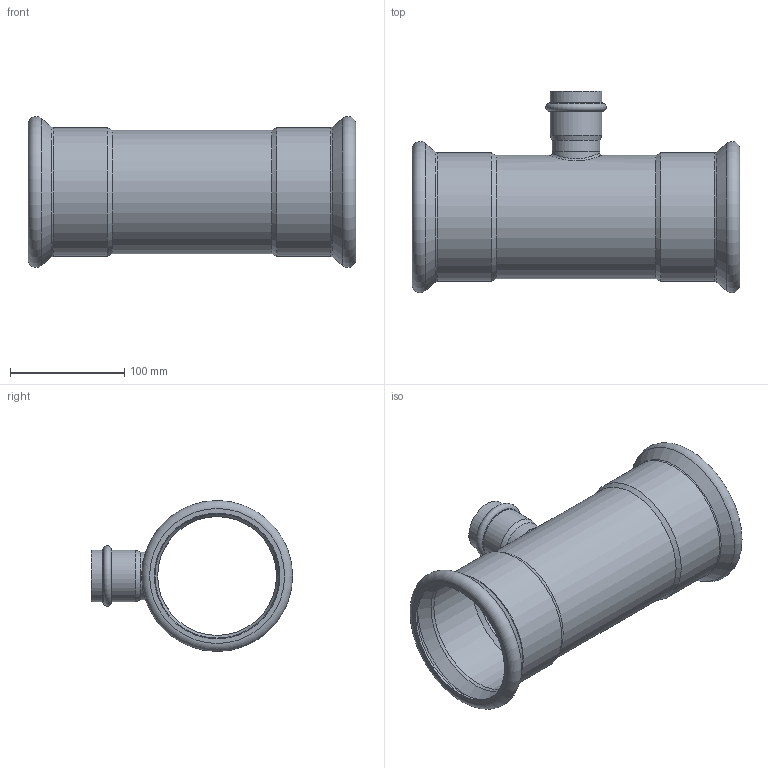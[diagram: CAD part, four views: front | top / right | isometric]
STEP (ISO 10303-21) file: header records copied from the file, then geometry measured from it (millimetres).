
FILE_DESCRIPTION((''),'2;1');
FILE_NAME('G:\Nirosan-Schmiedefeld\Technics\CAD\Bauteile VA\108\6913010842108(2).stp','2009-05-08T09:42:19',('herberg'),(''),'Autodesk Inventor 2009','Autodesk Inventor 2009','');
FILE_SCHEMA(('AUTOMOTIVE_DESIGN { 1 0 10303 214 1 1 1 1 }'));
Length unit declared in the file: millimetre
Products named in the file (3): 6913010842108(2); LM_6913010842108(0); HM_6924342(2)
Assembly tree (2 placements, depth 2):
  6913010842108(2)
    LM_6913010842108(0)
    HM_6924342(2)
Bounding box: 287 x 176.1 x 132.2 mm (x, y, z)
Volume: 224715.6 mm3; surface area: 230694.4 mm2
Topology: 2 solids, 2 shells, 51 faces, 105 edges, 60 vertices
Faces by surface type: cylinder 16, cone 12, bspline 10, plane 7, torus 6
Full cylindrical faces by diameter (mm): 38 x1, 39 x1, 42 x2, 42.3 x2, 45.3 x2, 104 x1, 108 x1, 108.7 x2, 110 x2, 112.7 x2
Entity records: 3141 total; most frequent: CARTESIAN_POINT 2209, DIRECTION 190, ORIENTED_EDGE 108, EDGE_LOOP 102, AXIS2_PLACEMENT_3D 95, EDGE_CURVE 54, VERTEX_POINT 52, FACE_OUTER_BOUND 51
